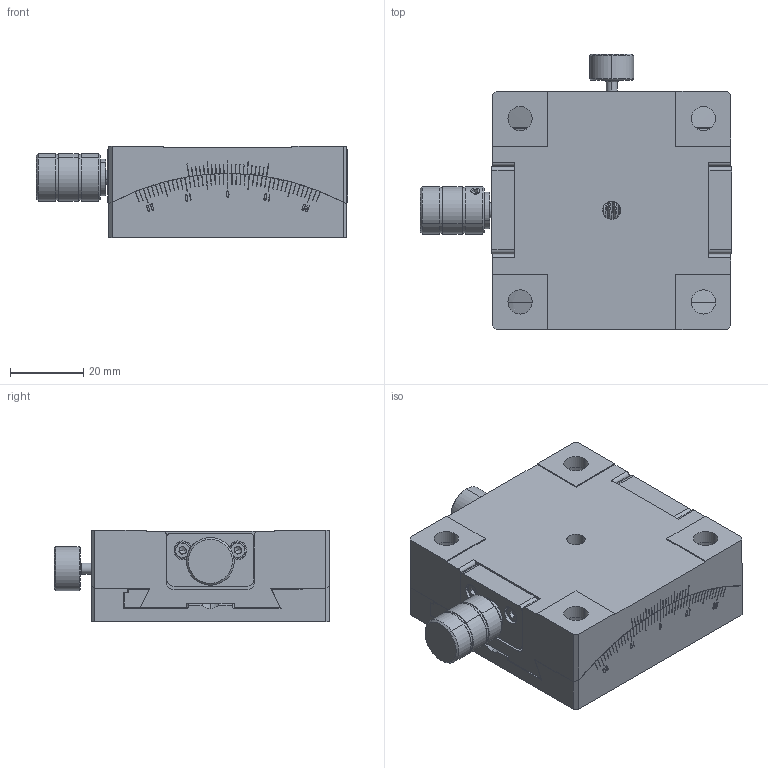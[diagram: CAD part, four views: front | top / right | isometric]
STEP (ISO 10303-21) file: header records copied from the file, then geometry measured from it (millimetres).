
FILE_DESCRIPTION (( 'STEP AP203' ), '1' );
FILE_NAME ('BFSG65-50.STEP', '2024-07-30T02:59:04', ( '微软用户' ), ( '微软中国' ), 'SwSTEP 2.0', 'SolidWorks 2024', '' );
FILE_SCHEMA (( 'CONFIG_CONTROL_DESIGN' ));
Products named in the file (1): BFSG65-50
Bounding box: 84.9 x 75 x 25 mm (x, y, z)
Volume: 98587.9 mm3; surface area: 39511.6 mm2
Topology: 15 solids, 15 shells, 1051 faces, 3096 edges, 1986 vertices
Faces by surface type: plane 442, cylinder 230, bspline 149, torus 101, cone 81, sphere 48
Entity records: 47171 total; most frequent: CARTESIAN_POINT 22028, ORIENTED_EDGE 5812, DIRECTION 4430, EDGE_CURVE 2906, VERTEX_POINT 1890, AXIS2_PLACEMENT_3D 1716, EDGE_LOOP 1158, B_SPLINE_CURVE_WITH_KNOTS 1058
